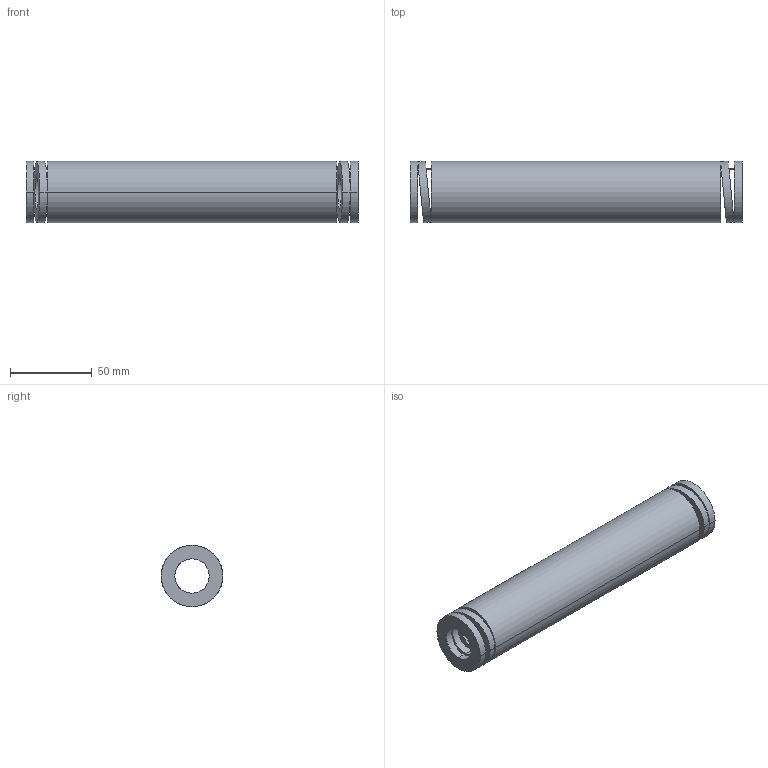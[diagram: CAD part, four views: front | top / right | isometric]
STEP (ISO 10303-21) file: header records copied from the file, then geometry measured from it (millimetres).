
FILE_DESCRIPTION( ( '' ), '1' );
FILE_NAME( 'C:/Users/carmelo/Desktop/cf/B/Step/B40-203_0_.stp', '2021-04-26T11:44:12', ( '' ), ( '' ), ' ', ' ', ' ' );
FILE_SCHEMA( ( 'automotive_design' ) );
Length unit declared in the file: millimetre
Products named in the file (1): 1
Bounding box: 203 x 37.78 x 37.5 mm (x, y, z)
Volume: 147597.4 mm3; surface area: 43551.8 mm2
Topology: 1 solids, 1 shells, 38 faces, 92 edges, 64 vertices
Faces by surface type: cylinder 28, plane 10
Entity records: 2292 total; most frequent: DIRECTION 234, STYLED_ITEM 195, PRESENTATION_STYLE_ASSIGNMENT 195, CARTESIAN_POINT 195, COLOUR_RGB 195, ORIENTED_EDGE 184, AXIS2_PLACEMENT_3D 103, EDGE_CURVE 92
